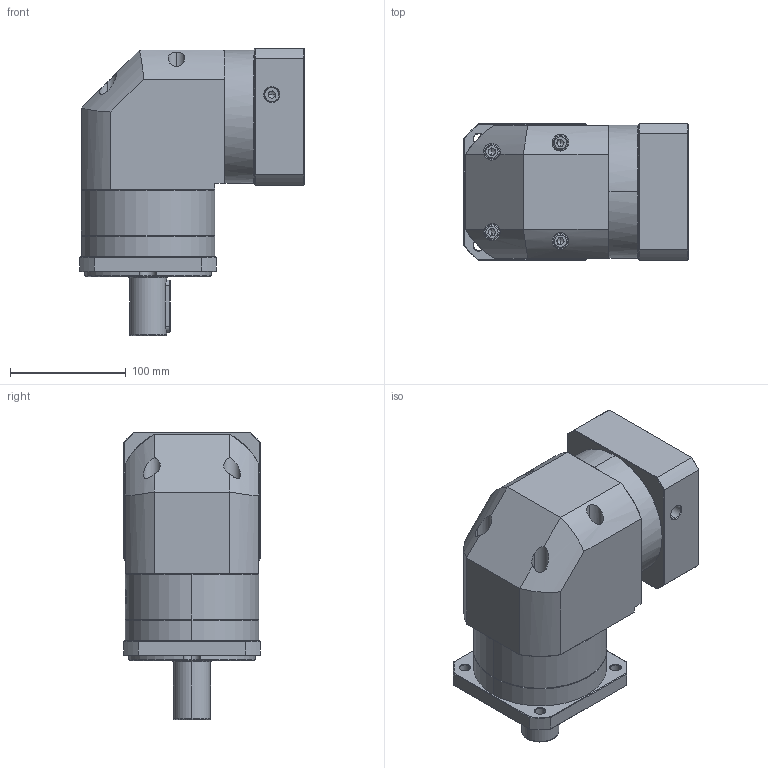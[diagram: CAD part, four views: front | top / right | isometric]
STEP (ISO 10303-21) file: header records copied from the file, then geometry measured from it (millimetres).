
FILE_DESCRIPTION (( 'STEP AP214' ), '1' );
FILE_NAME ('ZFR120A-D32-L1-P2-22-95-115-M8.step', '2023-08-27T08:07:25', ( '' ), ( '' ), 'SwSTEP 2.0', 'SolidWorks 2016', '' );
FILE_SCHEMA (( 'AUTOMOTIVE_DESIGN' ));
Length unit declared in the file: millimetre
Products named in the file (1): ZFR120A-D32-L1-P2-22-95-115-M8
Bounding box: 193.9 x 118 x 248 mm (x, y, z)
Volume: 2911721.1 mm3; surface area: 245122.7 mm2
Topology: 6 solids, 6 shells, 2266 faces, 5975 edges, 3814 vertices
Faces by surface type: plane 1061, cylinder 434, bspline 425, cone 338, torus 8
Entity records: 124447 total; most frequent: CARTESIAN_POINT 49049, ORIENTED_EDGE 11890, DIRECTION 8619, EDGE_CURVE 5945, VERTEX_POINT 3814, VECTOR 3159, LINE 3159, AXIS2_PLACEMENT_3D 2730
